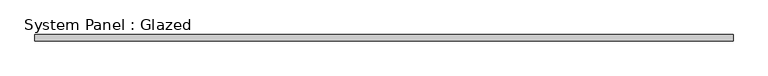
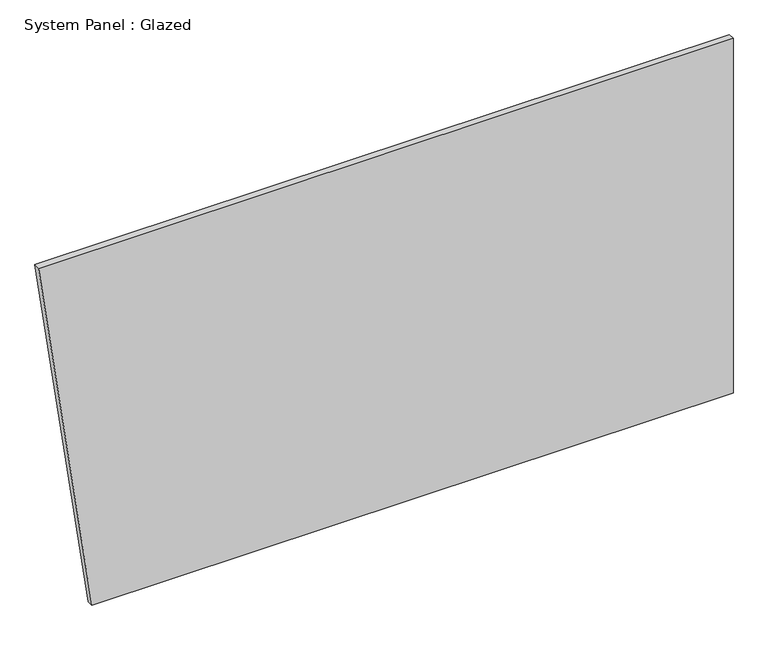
"""IFC4 building model written with IfcOpenShell, lengths in millimetres: plate geometry, System Panel : Glazed."""

from ifc_helpers import new_model, si_unit, frame, origin, place, context, project, spatial, polyline, outline, extrude, source, transform, mapped, element, save


def system_panel_glazed_31825f39(model_context):
    return source(origin(), model_context, "Body", "SweptSolid", [
        extrude(outline(polyline([(0.0, -1193.7494532), (0.0, 1410.7948083), (1524.0, 1410.7948083), (1524.0, -1410.7948083), (0.0, -1193.7494532)])), frame((0.0, 19.05, 0.0), z_axis=(0.0, 1.0, 0.0), x_axis=(0.0, 0.0, 1.0)), (0.0, 0.0, 1.0), 25.4),
    ])


if __name__ == "__main__":
    model = new_model("IFC4")
    model_context = context("Model", 3, world=origin())
    ifc_project = project(units=[si_unit("LENGTHUNIT", "METRE", prefix="MILLI")], contexts=[model_context])
    site = spatial("IfcSite", under=ifc_project)
    building = spatial("IfcBuilding", under=site)
    placement = place(None, origin())
    system_panel_glazed_shape = system_panel_glazed_31825f39(model_context)
    element("IfcPlate", 1, ObjectType="System Panel : Glazed", at=placement, inside=building, context=model_context, shape_type="MappedRepresentation", body=[
        mapped(system_panel_glazed_shape, transform((0.0, 0.0, 0.0), x_axis=(1.0, 0.0, 0.0), y_axis=(0.0, 1.0, 0.0), z_axis=(0.0, 0.0, 1.0))),
    ])
    save(model, "model.ifc")
